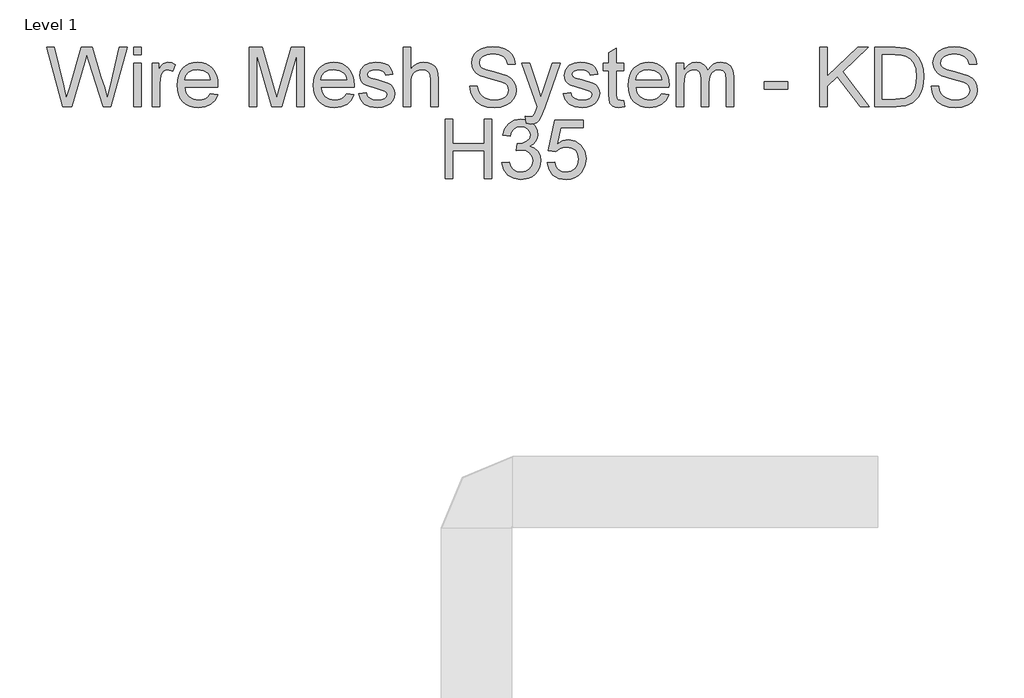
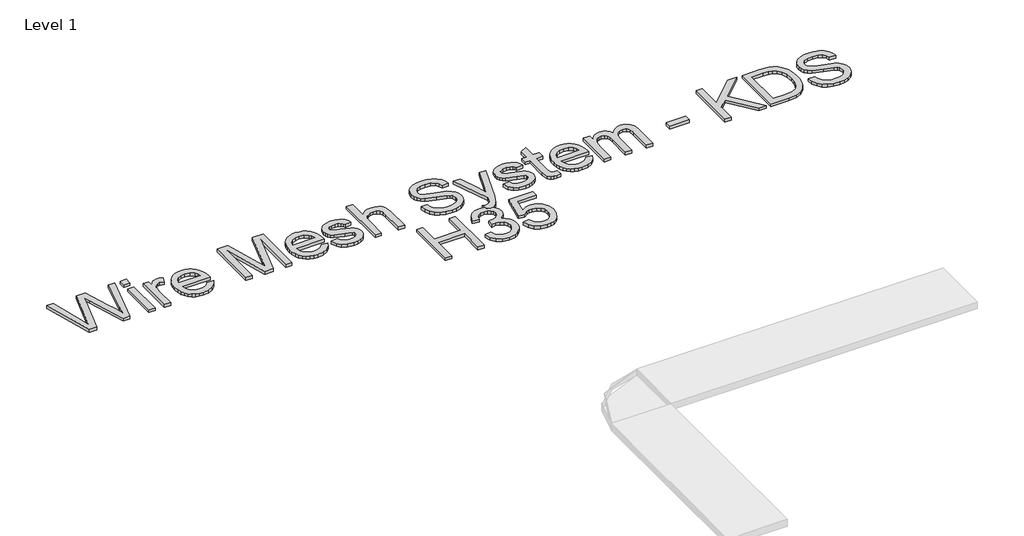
# One storey, part 30 of 32: 1 proxy.
"""IFC4 building model written with IfcOpenShell, lengths in millimetres."""

from ifc_helpers import new_model, si_unit, origin, origin_with_axes, place, context, project, spatial, polyline, outline, extrude, element, save

model = new_model("IFC4")

# Units and contexts
model_context = context("Model", 3, world=origin())
ifc_project = project(units=[si_unit("LENGTHUNIT", "METRE", prefix="MILLI")], contexts=[model_context])

# Site, building, storey
site = spatial("IfcSite", under=ifc_project)
building = spatial("IfcBuilding", under=site)
storey = spatial("IfcBuildingStorey", under=building, Name="Level 1", Elevation=0.0)

# Proxy
placement = place(None, origin())
element("IfcBuildingElementProxy", 1, Name="250mm Arial 3", ObjectType="250mm Arial 3", at=placement, inside=storey, context=model_context, shape_type="SweptSolid", body=[
    extrude(outline(polyline([(3816.2159742, 71503.1379564), (3747.7286094, 71754.2787318), (3780.102225, 71754.2787318), (3819.8334805, 71589.2223433), (3832.0962137, 71538.2706869), (3845.2173381, 71583.3362313), (3895.0040348, 71754.2787318), (3941.6637345, 71754.2787318), (3977.8387974, 71630.3638131), (3993.3358265, 71584.3785637), (4004.7554967, 71538.2706869), (4016.6503479, 71587.7508153), (4056.7494854, 71754.2787318), (4089.1231009, 71754.2787318), (4020.5744225, 71503.1379564), (3987.0358473, 71503.1379564), (3926.8258274, 71696.8891405), (3918.4258552, 71723.9284672), (3908.9835506, 71691.3709106), (3854.1078197, 71503.1379564), (3816.2159742, 71503.1379564)])), origin_with_axes(), (0.0, 0.0, 1.0), 15.0),
    extrude(outline(polyline([(4116.5916233, 71722.8861348), (4116.5916233, 71754.2787318), (4147.9842202, 71754.2787318), (4147.9842202, 71722.8861348), (4116.5916233, 71722.8861348)])), origin_with_axes(), (0.0, 0.0, 1.0), 15.0),
    extrude(outline(polyline([(4116.5916233, 71503.1379564), (4116.5916233, 71687.5694633), (4147.9842202, 71687.5694633), (4147.9842202, 71503.1379564), (4116.5916233, 71503.1379564)])), origin_with_axes(), (0.0, 0.0, 1.0), 15.0),
    extrude(outline(polyline([(4195.0731156, 71503.1379564), (4195.0731156, 71687.5694633), (4222.5416379, 71687.5694633), (4222.5416379, 71660.284882), (4232.6890496, 71676.1038078), (4242.0393836, 71685.423485), (4261.6597567, 71691.4935379), (4277.2947415, 71689.0716481), (4293.1749809, 71681.8059787), (4282.6903441, 71653.6630061), (4260.6174244, 71660.100941), (4251.2440977, 71658.5527709), (4242.8671181, 71653.9082608), (4231.5547467, 71636.7404343), (4226.4657125, 71600.0748621), (4226.4657125, 71503.1379564), (4195.0731156, 71503.1379564)])), origin_with_axes(), (0.0, 0.0, 1.0), 15.0),
    extrude(outline(polyline([(4441.9219343, 71558.075001), (4472.7013946, 71554.1509264), (4461.6112853, 71530.9590323), (4443.9146285, 71513.6225933), (4420.009963, 71502.8160597), (4390.2958277, 71499.2138818), (4370.8172424, 71500.7678), (4353.4616429, 71505.4295547), (4338.229029, 71513.1991458), (4325.1194009, 71524.0765733), (4314.5772824, 71537.759101), (4307.0471978, 71553.9439928), (4302.5291471, 71572.6312485), (4301.0231302, 71593.8208682), (4302.5444755, 71615.7290074), (4307.1085115, 71635.0389801), (4314.7152382, 71651.7507861), (4325.3646555, 71665.8644256), (4338.4397948, 71677.0771622), (4353.3236872, 71685.0862598), (4370.0163327, 71689.8917184), (4388.5177314, 71691.4935379), (4406.4232378, 71689.8955505), (4422.6157938, 71685.1015883), (4437.0953992, 71677.1116512), (4449.8620541, 71665.9257393), (4460.2834612, 71651.8427566), (4467.7273234, 71635.1616074), (4472.1936408, 71615.8822916), (4473.6824132, 71594.0048092), (4473.4984722, 71585.5435233), (4332.4157271, 71585.5435233), (4337.8496507, 71562.0450609), (4350.4726017, 71544.7699355), (4368.6904247, 71534.1473429), (4390.9089643, 71530.6064787), (4407.6169383, 71532.2466193), (4421.6884246, 71537.1670409), (4433.1234233, 71545.6743121), (4441.9219343, 71558.075001)]), holes=[polyline([(4332.4157271, 71616.9361202), (4442.2898163, 71616.9361202), (4438.043845, 71633.5214669), (4429.7205148, 71645.3856612), (4411.4183856, 71656.4221211), (4388.395104, 71660.100941), (4367.2342251, 71657.1655493), (4349.7368377, 71648.359374), (4337.5737392, 71634.632777), (4332.4157271, 71616.9361202)])]), origin_with_axes(), (0.0, 0.0, 1.0), 15.0),
    extrude(outline(polyline([(4607.1009502, 71503.1379564), (4607.1009502, 71754.2787318), (4661.1182898, 71754.2787318), (4712.4991418, 71577.2661784), (4722.8611513, 71540.2940379), (4734.0815522, 71580.3318617), (4784.6040128, 71754.2787318), (4838.6213525, 71754.2787318), (4838.6213525, 71503.1379564), (4807.2287555, 71503.1379564), (4807.2287555, 71722.8861348), (4744.1369934, 71503.1379564), (4701.5853093, 71503.1379564), (4638.4935471, 71722.8861348), (4638.4935471, 71503.1379564), (4607.1009502, 71503.1379564)])), origin_with_axes(), (0.0, 0.0, 1.0), 15.0),
    extrude(outline(polyline([(5018.7609028, 71558.075001), (5049.540363, 71554.1509264), (5038.4502537, 71530.9590323), (5020.7535969, 71513.6225933), (4996.8489314, 71502.8160597), (4967.1347961, 71499.2138818), (4947.6562109, 71500.7678), (4930.3006113, 71505.4295547), (4915.0679975, 71513.1991458), (4901.9583693, 71524.0765733), (4891.4162509, 71537.759101), (4883.8861663, 71553.9439928), (4879.3681155, 71572.6312485), (4877.8620986, 71593.8208682), (4879.3834439, 71615.7290074), (4883.9474799, 71635.0389801), (4891.5542066, 71651.7507861), (4902.203624, 71665.8644256), (4915.2787632, 71677.0771622), (4930.1626556, 71685.0862598), (4946.8553011, 71689.8917184), (4965.3566998, 71691.4935379), (4983.2622063, 71689.8955505), (4999.4547622, 71685.1015883), (5013.9343676, 71677.1116512), (5026.7010225, 71665.9257393), (5037.1224296, 71651.8427566), (5044.5662919, 71635.1616074), (5049.0326092, 71615.8822916), (5050.5213817, 71594.0048092), (5050.3374407, 71585.5435233), (4909.2546955, 71585.5435233), (4914.6886192, 71562.0450609), (4927.3115701, 71544.7699355), (4945.5293931, 71534.1473429), (4967.7479328, 71530.6064787), (4984.4559067, 71532.2466193), (4998.527393, 71537.1670409), (5009.9623917, 71545.6743121), (5018.7609028, 71558.075001)]), holes=[polyline([(4909.2546955, 71616.9361202), (5019.1287848, 71616.9361202), (5014.8828134, 71633.5214669), (5006.5594833, 71645.3856612), (4988.257354, 71656.4221211), (4965.2340725, 71660.100941), (4944.0731935, 71657.1655493), (4926.5758061, 71648.359374), (4914.4127077, 71634.632777), (4909.2546955, 71616.9361202)])]), origin_with_axes(), (0.0, 0.0, 1.0), 15.0),
    extrude(outline(polyline([(5070.1417548, 71558.075001), (5101.5343517, 71561.9990756), (5106.4854302, 71548.5713828), (5116.0656905, 71538.6998826), (5130.3364462, 71532.6298297), (5149.359011, 71530.6064787), (5168.1516496, 71532.4612171), (5181.3647446, 71538.0254323), (5189.182237, 71546.0881793), (5191.7880678, 71555.4385134), (5189.1669086, 71563.4399468), (5181.303431, 71569.5406565), (5148.9911291, 71578.4924517), (5101.7182927, 71593.851525), (5089.7544636, 71601.5693827), (5081.0862441, 71611.7857723), (5075.8209331, 71623.8492361), (5074.0658294, 71637.1083163), (5079.7066866, 71660.4994798), (5095.0964168, 71678.3724134), (5115.054015, 71687.6614338), (5142.0626848, 71691.4935379), (5162.495464, 71689.9530321), (5180.2610986, 71685.3315145), (5194.5471828, 71678.0811735), (5204.5413103, 71668.6541974), (5211.1631862, 71656.3531432), (5215.3325155, 71640.4805679), (5183.9399186, 71636.5564933), (5179.9775229, 71646.4356577), (5172.1370379, 71653.8776039), (5160.3418214, 71658.5451067), (5144.5152314, 71660.100941), (5126.4890137, 71658.6140846), (5114.4715352, 71654.1535154), (5107.7117035, 71647.7155805), (5105.4584263, 71640.2966269), (5109.1985599, 71631.1608907), (5120.9094701, 71624.2324465), (5147.9487967, 71617.5492569), (5194.0260166, 71602.7726634), (5206.1967793, 71595.7062634), (5215.424486, 71586.0340326), (5221.2416201, 71573.7253142), (5223.1806647, 71558.7494513), (5220.9043949, 71543.2677507), (5214.0755854, 71528.7057551), (5202.9548192, 71516.2054314), (5187.8026795, 71506.9087468), (5169.5005503, 71501.137598), (5148.9298154, 71499.2138818), (5117.2766354, 71502.9233586), (5094.1767118, 71514.0517889), (5078.7563248, 71532.4765455), (5070.1417548, 71558.075001)])), origin_with_axes(), (0.0, 0.0, 1.0), 15.0),
    extrude(outline(polyline([(5258.4973363, 71503.1379564), (5258.4973363, 71754.2787318), (5289.8899332, 71754.2787318), (5289.8899332, 71661.940351), (5301.4207345, 71674.8698703), (5314.3694143, 71684.1052412), (5328.7359726, 71689.6464637), (5344.5204095, 71691.4935379), (5363.4816607, 71689.4778512), (5379.7757674, 71683.4307909), (5392.6056519, 71673.8275379), (5401.1742367, 71661.1432733), (5406.0026879, 71643.7148638), (5407.6121717, 71619.8791762), (5407.6121717, 71503.1379564), (5376.2195747, 71503.1379564), (5376.2195747, 71616.6295519), (5373.7210429, 71636.2805818), (5366.2254472, 71649.7389315), (5354.146655, 71657.5104386), (5337.8985336, 71660.100941), (5324.6317891, 71658.3535015), (5312.1774507, 71653.1111831), (5301.8614265, 71644.8798235), (5295.0096243, 71634.1652603), (5291.169856, 71619.9251614), (5289.8899332, 71601.1171944), (5289.8899332, 71503.1379564), (5258.4973363, 71503.1379564)])), origin_with_axes(), (0.0, 0.0, 1.0), 15.0),
    extrude(outline(polyline([(5541.0307086, 71589.4675979), (5572.4233055, 71589.4675979), (5576.0254834, 71572.0468526), (5582.5400604, 71558.0443442), (5592.7028005, 71546.9312422), (5607.2494677, 71538.1787164), (5625.0304308, 71532.4995381), (5644.8960586, 71530.6064787), (5662.3857817, 71532.0396856), (5677.6988698, 71536.3393065), (5690.1072229, 71543.1451234), (5698.8827413, 71552.0969186), (5704.1020672, 71562.3746218), (5705.8418424, 71573.1581628), (5700.6301808, 71592.7478791), (5692.6900611, 71600.4963936), (5679.2930251, 71607.0033064), (5633.5836872, 71618.990128), (5584.3794703, 71634.4718287), (5568.7521498, 71645.0331076), (5557.6773689, 71657.8323354), (5551.0784856, 71672.5936004), (5548.8788578, 71689.0409913), (5551.5996517, 71707.4274268), (5559.7620335, 71724.5722607), (5573.1514053, 71739.1035995), (5591.5531693, 71749.64955), (5613.6414174, 71756.0644923), (5638.0902416, 71758.2028064), (5664.5777453, 71755.9648576), (5687.754311, 71749.2510112), (5706.7922042, 71738.1992229), (5720.8636906, 71722.9474485), (5729.7695005, 71704.4460498), (5733.3103647, 71683.6453887), (5701.9177678, 71683.6453887), (5696.1542832, 71702.3767136), (5684.1368047, 71715.8963769), (5665.3594945, 71724.0817513), (5639.316515, 71726.8102095), (5612.6603987, 71724.1124082), (5594.3735979, 71716.0190043), (5583.7969905, 71704.1088247), (5580.2714547, 71689.9606963), (5582.7699866, 71677.8972325), (5590.2655823, 71668.1943449), (5607.9852317, 71659.5184612), (5641.5238069, 71650.6586365), (5697.0739882, 71634.9010243), (5714.9699144, 71623.5120109), (5727.4549096, 71609.455853), (5734.7895569, 71592.8858348), (5737.2344393, 71573.9552405), (5734.4216749, 71554.6031147), (5725.9833817, 71536.4006201), (5712.2644489, 71520.7349785), (5693.6097661, 71508.9934115), (5671.1766286, 71501.6587642), (5646.1223319, 71499.2138818), (5615.3658642, 71501.8503694), (5590.0509844, 71509.7598323), (5569.8864526, 71522.9729273), (5554.5810287, 71541.5203112), (5544.7555138, 71564.1143971), (5541.0307086, 71589.4675979)])), origin_with_axes(), (0.0, 0.0, 1.0), 15.0),
    extrude(outline(polyline([(5780.3992601, 71432.5046133), (5776.4751855, 71462.7322506), (5792.4167386, 71459.9731356), (5807.3159594, 71463.4373577), (5816.4516956, 71473.0942601), (5825.0356089, 71496.2095122), (5827.4881555, 71503.8124067), (5760.778887, 71687.5694633), (5793.8882666, 71687.5694633), (5829.2662518, 71585.1756413), (5841.5902986, 71544.2181125), (5853.9143455, 71580.3931754), (5890.2733493, 71687.5694633), (5923.1374742, 71687.5694633), (5858.9420661, 71498.7233725), (5842.264749, 71457.7658437), (5833.726821, 71444.6907044), (5824.0545902, 71435.6316103), (5812.8188609, 71430.3433066), (5799.5904375, 71428.5805387), (5780.3992601, 71432.5046133)])), origin_with_axes(), (0.0, 0.0, 1.0), 15.0),
    extrude(outline(polyline([(5937.3622447, 71558.075001), (5968.7548416, 71561.9990756), (5973.7059202, 71548.5713828), (5983.2861804, 71538.6998826), (5997.5569362, 71532.6298297), (6016.579501, 71530.6064787), (6035.3721396, 71532.4612171), (6048.5852346, 71538.0254323), (6056.402727, 71546.0881793), (6059.0085578, 71555.4385134), (6056.3873986, 71563.4399468), (6048.5239209, 71569.5406565), (6016.211619, 71578.4924517), (5968.9387826, 71593.851525), (5956.9749536, 71601.5693827), (5948.3067341, 71611.7857723), (5943.041423, 71623.8492361), (5941.2863193, 71637.1083163), (5946.9271766, 71660.4994798), (5962.3169067, 71678.3724134), (5982.274505, 71687.6614338), (6009.2831748, 71691.4935379), (6029.7159539, 71689.9530321), (6047.4815886, 71685.3315145), (6061.7676728, 71678.0811735), (6071.7618003, 71668.6541974), (6078.3836762, 71656.3531432), (6082.5530055, 71640.4805679), (6051.1604086, 71636.5564933), (6047.1980129, 71646.4356577), (6039.3575279, 71653.8776039), (6027.5623114, 71658.5451067), (6011.7357214, 71660.100941), (5993.7095036, 71658.6140846), (5981.6920251, 71654.1535154), (5974.9321935, 71647.7155805), (5972.6789163, 71640.2966269), (5976.4190499, 71631.1608907), (5988.1299601, 71624.2324465), (6015.1692867, 71617.5492569), (6061.2465066, 71602.7726634), (6073.4172693, 71595.7062634), (6082.644976, 71586.0340326), (6088.46211, 71573.7253142), (6090.4011547, 71558.7494513), (6088.1248849, 71543.2677507), (6081.2960753, 71528.7057551), (6070.1753092, 71516.2054314), (6055.0231695, 71506.9087468), (6036.7210402, 71501.137598), (6016.1503054, 71499.2138818), (5984.4971253, 71502.9233586), (5961.3972017, 71514.0517889), (5945.9768148, 71532.4765455), (5937.3622447, 71558.075001)])), origin_with_axes(), (0.0, 0.0, 1.0), 15.0),
    extrude(outline(polyline([(6192.4270947, 71529.3188917), (6196.3511693, 71502.2182514), (6172.8680353, 71499.2138818), (6157.8002019, 71500.5167972), (6146.5644726, 71504.4255434), (6133.4433481, 71518.0984909), (6129.6419009, 71553.7217307), (6129.6419009, 71656.1768664), (6106.0974532, 71656.1768664), (6106.0974532, 71687.5694633), (6129.6419009, 71687.5694633), (6129.6419009, 71732.3897531), (6161.0344978, 71750.8451665), (6161.0344978, 71687.5694633), (6192.4270947, 71687.5694633), (6192.4270947, 71656.1768664), (6161.0344978, 71656.1768664), (6161.0344978, 71554.6414357), (6162.6899668, 71538.4546279), (6168.0549125, 71532.7218002), (6178.7541472, 71530.6064787), (6192.4270947, 71529.3188917)])), origin_with_axes(), (0.0, 0.0, 1.0), 15.0),
    extrude(outline(polyline([(6352.9462719, 71558.075001), (6383.7257322, 71554.1509264), (6372.6356229, 71530.9590323), (6354.9389661, 71513.6225933), (6331.0343006, 71502.8160597), (6301.3201653, 71499.2138818), (6281.8415801, 71500.7678), (6264.4859805, 71505.4295547), (6249.2533666, 71513.1991458), (6236.1437385, 71524.0765733), (6225.60162, 71537.759101), (6218.0715355, 71553.9439928), (6213.5534847, 71572.6312485), (6212.0474678, 71593.8208682), (6213.5688131, 71615.7290074), (6218.1328491, 71635.0389801), (6225.7395758, 71651.7507861), (6236.3889931, 71665.8644256), (6249.4641324, 71677.0771622), (6264.3480248, 71685.0862598), (6281.0406703, 71689.8917184), (6299.542069, 71691.4935379), (6317.4475755, 71689.8955505), (6333.6401314, 71685.1015883), (6348.1197368, 71677.1116512), (6360.8863917, 71665.9257393), (6371.3077988, 71651.8427566), (6378.7516611, 71635.1616074), (6383.2179784, 71615.8822916), (6384.7067509, 71594.0048092), (6384.5228099, 71585.5435233), (6243.4400647, 71585.5435233), (6248.8739883, 71562.0450609), (6261.4969393, 71544.7699355), (6279.7147623, 71534.1473429), (6301.9333019, 71530.6064787), (6318.6412759, 71532.2466193), (6332.7127622, 71537.1670409), (6344.1477609, 71545.6743121), (6352.9462719, 71558.075001)]), holes=[polyline([(6243.4400647, 71616.9361202), (6353.3141539, 71616.9361202), (6349.0681826, 71633.5214669), (6340.7448524, 71645.3856612), (6322.4427232, 71656.4221211), (6299.4194416, 71660.100941), (6278.2585627, 71657.1655493), (6260.7611753, 71648.359374), (6248.5980768, 71634.632777), (6243.4400647, 71616.9361202)])]), origin_with_axes(), (0.0, 0.0, 1.0), 15.0),
    extrude(outline(polyline([(6416.0993478, 71503.1379564), (6416.0993478, 71687.5694633), (6447.4919447, 71687.5694633), (6447.4919447, 71657.2191987), (6456.9342492, 71671.1603935), (6469.0743551, 71682.0818902), (6483.498395, 71689.140626), (6499.7925017, 71691.4935379), (6517.251568, 71689.0946407), (6531.2464123, 71681.8979492), (6541.7003923, 71670.3786442), (6548.536866, 71655.0119067), (6559.9795289, 71670.9726204), (6573.0316756, 71682.3731301), (6587.6933059, 71689.213436), (6603.96442, 71691.4935379), (6627.5625171, 71687.6997549), (6645.0139193, 71676.3184056), (6655.7974603, 71657.0429219), (6659.3919739, 71629.5667354), (6659.3919739, 71503.1379564), (6627.999377, 71503.1379564), (6627.999377, 71616.0777289), (6625.0869779, 71642.2893211), (6614.5410273, 71655.1958477), (6596.6067801, 71660.100941), (6579.599902, 71656.9586156), (6565.7353493, 71647.5316395), (6556.5153068, 71631.1762191), (6553.4419593, 71607.248561), (6553.4419593, 71503.1379564), (6522.0493624, 71503.1379564), (6522.0493624, 71619.5726079), (6520.232945, 71637.3229141), (6514.783693, 71649.9841861), (6505.1957685, 71657.5717523), (6490.9633338, 71660.100941), (6478.8692132, 71658.4148152), (6467.7254544, 71653.3564378), (6458.5284046, 71645.048436), (6452.2744106, 71633.6134374), (6447.4919447, 71596.1507875), (6447.4919447, 71503.1379564), (6416.0993478, 71503.1379564)])), origin_with_axes(), (0.0, 0.0, 1.0), 15.0),
    extrude(outline(polyline([(6788.8864362, 71577.6953741), (6788.8864362, 71609.087971), (6886.9883016, 71609.087971), (6886.9883016, 71577.6953741), (6788.8864362, 71577.6953741)])), origin_with_axes(), (0.0, 0.0, 1.0), 15.0),
    extrude(outline(polyline([(7024.3309131, 71503.1379564), (7024.3309131, 71754.2787318), (7055.7235101, 71754.2787318), (7055.7235101, 71631.3448317), (7184.4822084, 71754.2787318), (7228.3827931, 71754.2787318), (7120.2868002, 71651.0265185), (7232.3068677, 71503.1379564), (7193.9245129, 71503.1379564), (7098.0299395, 71629.8119901), (7055.7235101, 71589.4675979), (7055.7235101, 71503.1379564), (7024.3309131, 71503.1379564)])), origin_with_axes(), (0.0, 0.0, 1.0), 15.0),
    extrude(outline(polyline([(7255.8513154, 71503.1379564), (7255.8513154, 71754.2787318), (7342.4875253, 71754.2787318), (7387.307815, 71750.6612255), (7407.3267269, 71743.686796), (7424.2186419, 71732.6963214), (7441.5857377, 71713.5664576), (7453.9557698, 71689.7767553), (7461.359395, 71661.7870668), (7463.82727, 71630.0572447), (7462.1564726, 71603.1022244), (7457.1440805, 71579.3814999), (7449.5105291, 71559.1863112), (7439.976254, 71542.8078982), (7417.044943, 71520.0298713), (7387.0319035, 71507.429913), (7346.6568546, 71503.1379564), (7255.8513154, 71503.1379564)]), holes=[polyline([(7287.2439124, 71534.5305533), (7342.7940936, 71534.5305533), (7383.1997994, 71539.0677646), (7406.4989925, 71551.8823208), (7417.4051608, 71565.470962), (7425.5981994, 71583.0603198), (7430.7255547, 71604.7270365), (7432.4346731, 71630.5477541), (7429.0854141, 71664.7607796), (7419.0376371, 71690.0220099), (7404.1920658, 71707.3737774), (7386.4494237, 71717.8584142), (7368.3925491, 71721.6292047), (7341.9357023, 71722.8861348), (7287.2439124, 71722.8861348), (7287.2439124, 71534.5305533)])]), origin_with_axes(), (0.0, 0.0, 1.0), 15.0),
    extrude(outline(polyline([(7495.219867, 71589.4675979), (7526.6124639, 71589.4675979), (7530.2146418, 71572.0468526), (7536.7292187, 71558.0443442), (7546.8919589, 71546.9312422), (7561.4386261, 71538.1787164), (7579.2195892, 71532.4995381), (7599.0852169, 71530.6064787), (7616.5749401, 71532.0396856), (7631.8880282, 71536.3393065), (7644.2963813, 71543.1451234), (7653.0718997, 71552.0969186), (7658.2912255, 71562.3746218), (7660.0310008, 71573.1581628), (7654.8193392, 71592.7478791), (7646.8792195, 71600.4963936), (7633.4821835, 71607.0033064), (7587.7728456, 71618.990128), (7538.5686287, 71634.4718287), (7522.9413081, 71645.0331076), (7511.8665272, 71657.8323354), (7505.267644, 71672.5936004), (7503.0680162, 71689.0409913), (7505.7888101, 71707.4274268), (7513.9511919, 71724.5722607), (7527.3405637, 71739.1035995), (7545.7423276, 71749.64955), (7567.8305758, 71756.0644923), (7592.2794, 71758.2028064), (7618.7669037, 71755.9648576), (7641.9434694, 71749.2510112), (7660.9813626, 71738.1992229), (7675.0528489, 71722.9474485), (7683.9586589, 71704.4460498), (7687.4995231, 71683.6453887), (7656.1069262, 71683.6453887), (7650.3434416, 71702.3767136), (7638.3259631, 71715.8963769), (7619.5486529, 71724.0817513), (7593.5056733, 71726.8102095), (7566.8495571, 71724.1124082), (7548.5627563, 71716.0190043), (7537.9861489, 71704.1088247), (7534.4606131, 71689.9606963), (7536.959145, 71677.8972325), (7544.4547406, 71668.1943449), (7562.1743901, 71659.5184612), (7595.7129653, 71650.6586365), (7651.2631466, 71634.9010243), (7669.1590728, 71623.5120109), (7681.644068, 71609.455853), (7688.9787153, 71592.8858348), (7691.4235977, 71573.9552405), (7688.6108333, 71554.6031147), (7680.17254, 71536.4006201), (7666.4536073, 71520.7349785), (7647.7989245, 71508.9934115), (7625.365787, 71501.6587642), (7600.3114902, 71499.2138818), (7569.5550226, 71501.8503694), (7544.2401428, 71509.7598323), (7524.075611, 71522.9729273), (7508.7701871, 71541.5203112), (7498.9446722, 71564.1143971), (7495.219867, 71589.4675979)])), origin_with_axes(), (0.0, 0.0, 1.0), 15.0),
    extrude(outline(polyline([(5437.0427313, 71198.2009118), (5437.0427313, 71449.3416872), (5468.4353282, 71449.3416872), (5468.4353282, 71347.3157472), (5601.8538651, 71347.3157472), (5601.8538651, 71449.3416872), (5633.246462, 71449.3416872), (5633.246462, 71198.2009118), (5601.8538651, 71198.2009118), (5601.8538651, 71315.9231502), (5468.4353282, 71315.9231502), (5468.4353282, 71198.2009118), (5437.0427313, 71198.2009118)])), origin_with_axes(), (0.0, 0.0, 1.0), 15.0),
    extrude(outline(polyline([(5676.4112828, 71264.9101802), (5707.8038797, 71268.8342549), (5714.8319587, 71249.1065829), (5725.1249903, 71235.786189), (5739.1888124, 71228.1986228), (5757.5292627, 71225.6694341), (5779.0503595, 71229.1489846), (5795.6663629, 71239.5876362), (5806.2889555, 71255.1613074), (5809.8298197, 71274.0459165), (5806.3196124, 71291.9724995), (5795.7889902, 71306.5115025), (5779.8474371, 71316.1454123), (5760.1044367, 71319.3567155), (5738.0928307, 71315.9231502), (5741.5877096, 71347.3157472), (5746.6154302, 71346.9478652), (5765.4233972, 71349.2011424), (5782.2386701, 71355.960974), (5794.1028644, 71367.3959727), (5798.0575959, 71383.674751), (5795.191182, 71397.2327354), (5786.5919404, 71408.2308742), (5773.4708159, 71415.5195362), (5757.0387534, 71417.9490902), (5740.5760341, 71415.4965436), (5727.1176845, 71408.1389037), (5717.2921695, 71395.8761705), (5711.7279543, 71378.7083441), (5680.3353574, 71382.6324187), (5689.5783925, 71410.8213766), (5706.0257834, 71431.8672924), (5728.5278988, 71444.9730885), (5755.9351074, 71449.3416872), (5775.6704436, 71447.1880446), (5793.7962961, 71440.7271171), (5809.0787273, 71430.5337202), (5820.2837998, 71417.1826694), (5827.1585945, 71401.8006035), (5829.4501928, 71385.514161), (5827.2735577, 71370.3390287), (5820.7436522, 71356.5741107), (5809.9524471, 71344.8478721), (5794.9919126, 71335.788778), (5814.6429425, 71327.8486582), (5829.2049381, 71314.3289949), (5838.218047, 71295.965552), (5841.2224166, 71273.4940935), (5839.7202318, 71257.5678688), (5835.2136774, 71242.8985742), (5827.7027533, 71229.4862098), (5817.1874596, 71217.3307755), (5804.3767356, 71207.2446775), (5789.9795204, 71200.0403218), (5756.4256168, 71194.2768372), (5726.0753522, 71199.1972589), (5701.3659448, 71213.9585239), (5684.18279, 71236.5372814), (5676.4112828, 71264.9101802)])), origin_with_axes(), (0.0, 0.0, 1.0), 15.0),
    extrude(outline(polyline([(5868.690939, 71264.9101802), (5900.0835359, 71268.8342549), (5905.8470205, 71249.9879668), (5915.9024617, 71236.4912961), (5930.2038742, 71228.3748996), (5948.7052729, 71225.6694341), (5971.2073883, 71229.4325603), (5988.0686464, 71240.7219391), (5998.5992685, 71258.2346549), (6002.1094759, 71280.6677924), (5998.8215305, 71301.7903503), (5988.9576945, 71317.9465012), (5972.4413258, 71328.2012118), (5949.1957822, 71331.6194487), (5933.9670005, 71330.2552196), (5921.6352894, 71326.1625324), (5904.0076105, 71311.9990756), (5872.6150136, 71315.9231502), (5900.0835359, 71445.4176125), (6021.7298489, 71445.4176125), (6021.7298489, 71414.0250156), (5925.4673935, 71414.0250156), (5912.0397007, 71344.8632005), (5934.465174, 71358.4748343), (5957.9636364, 71363.0120456), (5987.2945614, 71357.3865168), (6011.6437509, 71340.5099303), (6028.0374923, 71314.7888474), (6033.5020728, 71282.6298297), (6028.5816511, 71251.2372328), (6013.820386, 71224.3818471), (6000.7759036, 71211.2109053), (5985.5547861, 71201.8030897), (5968.1570334, 71196.1584003), (5948.5826456, 71194.2768372), (5917.7495359, 71199.1129526), (5893.1857485, 71213.6212987), (5876.347483, 71236.1157499), (5868.690939, 71264.9101802)])), origin_with_axes(), (0.0, 0.0, 1.0), 15.0),
])

save(model, "model.ifc")
